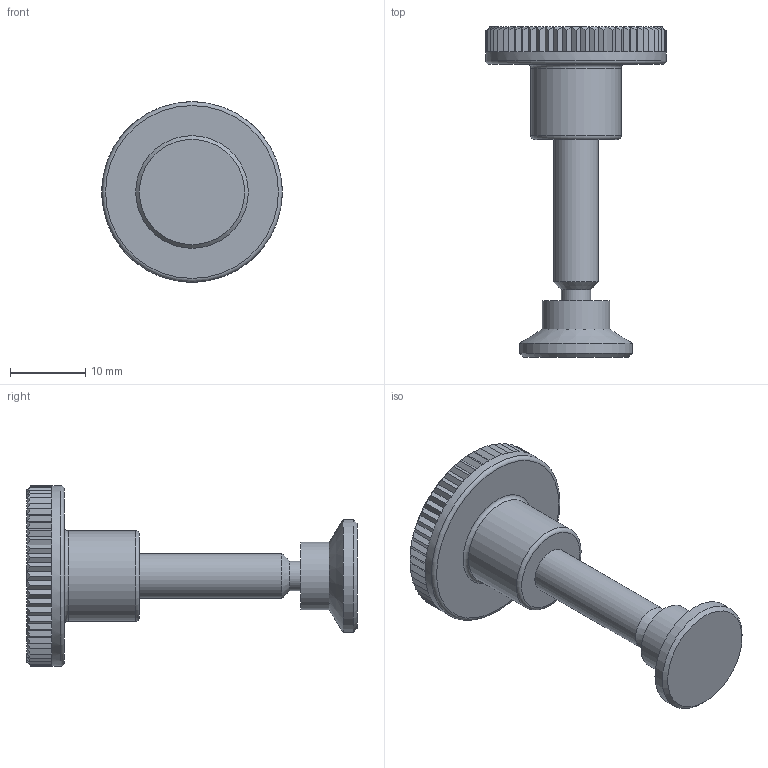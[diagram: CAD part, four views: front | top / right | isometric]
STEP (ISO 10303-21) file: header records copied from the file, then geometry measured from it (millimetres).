
FILE_DESCRIPTION(/* description */ ('STEP AP214'),/* implementation_level */ '2;1');
FILE_NAME(/* name */ '317611-C9',/* time_stamp */ '2026-05-07T15:49:06+02:00',/* author */ ('License CC BY-ND 4.0'),/* organization */ ('CADENAS'),/* preprocessor_version */ 'ST-DEVELOPER v20',/* originating_system */ 'PARTsolutions',/* authorisation */ ' ');
FILE_SCHEMA (('AUTOMOTIVE_DESIGN {1 0 10303 214 3 1 1}'));
Length unit declared in the file: millimetre
Products named in the file (3): ELESA-Knurled thumb screws with locking thrust pad DT.464.24-CM6x25-C
SV15-C9  (0); ELESA-Knurled knobs DT.464.24-CM6x25-CSV15-C9  1; ELESA-Manopole zigrinate DT.464.24-M6x25-SB-C9
Assembly tree (2 placements, depth 2):
  ELESA-Knurled thumb screws with locking thrust pad DT.464.24-CM6x25-C
SV15-C9  (0)
    ELESA-Knurled knobs DT.464.24-CM6x25-CSV15-C9  1
    ELESA-Manopole zigrinate DT.464.24-M6x25-SB-C9
Bounding box: 24 x 43.98 x 24 mm (x, y, z)
Volume: 4650.8 mm3; surface area: 2705.9 mm2
Topology: 2 solids, 2 shells, 260 faces, 515 edges, 260 vertices
Faces by surface type: plane 185, cone 64, cylinder 7, torus 3, sphere 1
Full cylindrical faces by diameter (mm): 3.879 x1, 4.5 x1, 6 x1, 9 x1, 12 x1, 15 x1, 24 x1
Entity records: 6453 total; most frequent: CARTESIAN_POINT 1378, DIRECTION 1040, ORIENTED_EDGE 994, EDGE_CURVE 497, AXIS2_PLACEMENT_3D 400, FACE_BOUND 277, EDGE_LOOP 276, ADVANCED_FACE 260
